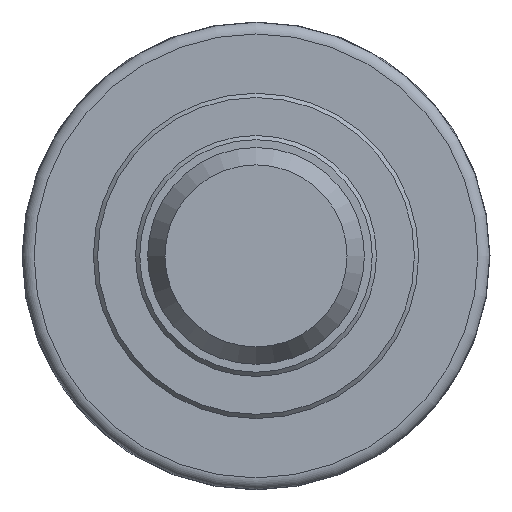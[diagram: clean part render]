
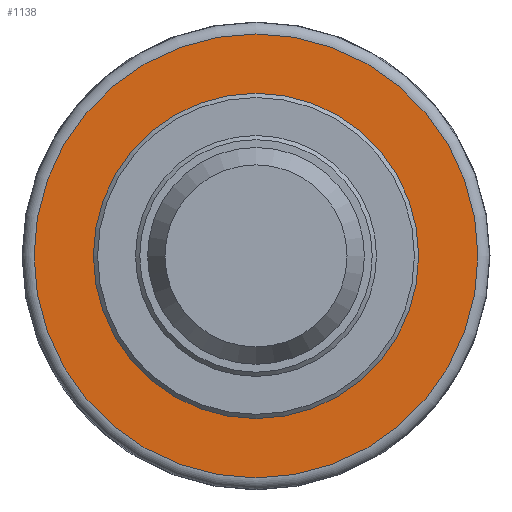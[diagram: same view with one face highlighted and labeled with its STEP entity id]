
A CAD part, left-side view. The second image highlights one B-rep face of the part: STEP entity #1138.
In plain terms, the highlighted planar face has unit normal (-1, 0, 0).
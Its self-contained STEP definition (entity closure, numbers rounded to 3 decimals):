
#1104=CARTESIAN_POINT('',(-16.0,36.85,0.0));
#1105=VERTEX_POINT('',#1104);
#1106=CARTESIAN_POINT('',(-16.0,0.0,0.0));
#1107=DIRECTION('',(1.0,0.0,0.0));
#1108=DIRECTION('',(0.0,-1.0,0.0));
#1109=AXIS2_PLACEMENT_3D('',#1106,#1107,#1108);
#1110=CIRCLE('',#1109,36.85);
#1111=EDGE_CURVE('',#1105,#1105,#1110,.T.);
#1119=CARTESIAN_POINT('',(-16.0,32.425,0.0));
#1120=DIRECTION('',(-1.0,0.0,0.0));
#1121=DIRECTION('',(0.0,0.0,1.0));
#1122=AXIS2_PLACEMENT_3D('',#1119,#1120,#1121);
#1123=PLANE('',#1122);
#1124=ORIENTED_EDGE('',*,*,#1111,.F.);
#1125=EDGE_LOOP('',(#1124));
#1126=FACE_OUTER_BOUND('',#1125,.T.);
#1127=CARTESIAN_POINT('',(-16.0,26.0,0.0));
#1128=VERTEX_POINT('',#1127);
#1129=CARTESIAN_POINT('',(-16.0,0.0,0.0));
#1130=DIRECTION('',(1.0,0.0,0.0));
#1131=DIRECTION('',(0.0,1.0,0.0));
#1132=AXIS2_PLACEMENT_3D('',#1129,#1130,#1131);
#1133=CIRCLE('',#1132,26.0);
#1134=EDGE_CURVE('',#1128,#1128,#1133,.T.);
#1135=ORIENTED_EDGE('',*,*,#1134,.T.);
#1136=EDGE_LOOP('',(#1135));
#1137=FACE_BOUND('',#1136,.T.);
#1138=ADVANCED_FACE('',(#1126,#1137),#1123,.T.);
